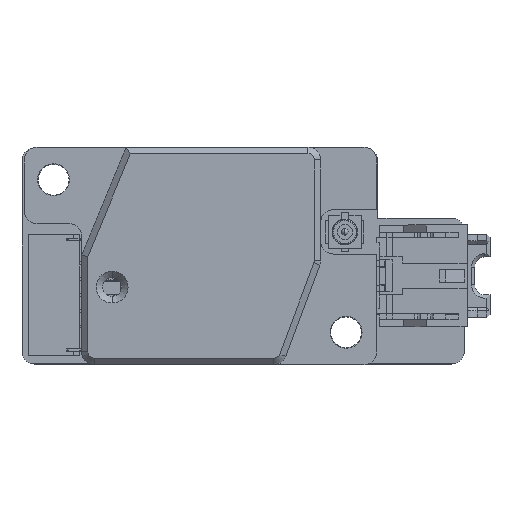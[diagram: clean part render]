
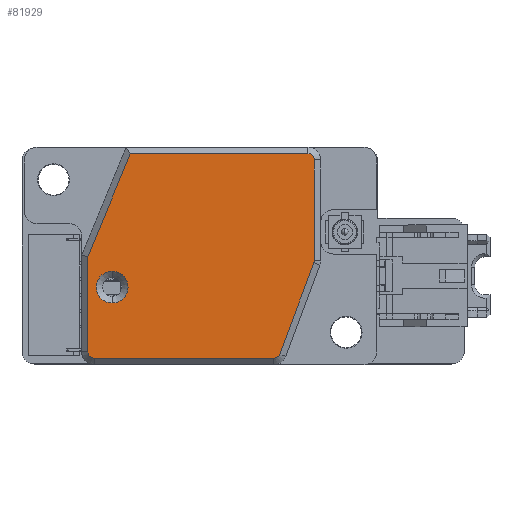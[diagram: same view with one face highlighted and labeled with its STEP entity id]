
A CAD part, top view. The second image highlights one B-rep face of the part: STEP entity #81929.
In plain terms, the highlighted planar face has unit normal (0, 0, 1).
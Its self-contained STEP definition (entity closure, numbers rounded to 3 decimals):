
#2525 = FACE_BOUND ( 'NONE', #97248, .T. ) ;
#2706 = EDGE_CURVE ( 'NONE', #183189, #329515, #355549, .T. ) ;
#2967 = LINE ( 'NONE', #348636, #216917 ) ;
#12756 = EDGE_CURVE ( 'NONE', #284502, #366598, #288538, .T. ) ;
#14820 = CARTESIAN_POINT ( 'NONE',  ( -7.55, 8.3, 4.4 ) ) ;
#17360 = EDGE_CURVE ( 'NONE', #314390, #156970, #401007, .T. ) ;
#17772 = CIRCLE ( 'NONE', #251817, 0.5 ) ;
#19172 = ORIENTED_EDGE ( 'NONE', *, *, #2706, .T. ) ;
#19414 = DIRECTION ( 'NONE',  ( 1., 0., 0. ) ) ;
#29597 = CARTESIAN_POINT ( 'NONE',  ( 7.55, -9., 4.4 ) ) ;
#32936 = DIRECTION ( 'NONE',  ( -1., 0., 0. ) ) ;
#38335 = VECTOR ( 'NONE', #242576, 1000. ) ;
#40787 = ORIENTED_EDGE ( 'NONE', *, *, #147637, .T. ) ;
#46308 = EDGE_CURVE ( 'NONE', #336574, #84696, #374452, .T. ) ;
#47425 = ORIENTED_EDGE ( 'NONE', *, *, #17360, .T. ) ;
#48029 = VECTOR ( 'NONE', #155359, 1000. ) ;
#48511 = VECTOR ( 'NONE', #32936, 1000. ) ;
#49855 = LINE ( 'NONE', #112898, #38335 ) ;
#53769 = AXIS2_PLACEMENT_3D ( 'NONE', #283234, #99055, #226653 ) ;
#57697 = CARTESIAN_POINT ( 'NONE',  ( 7.55, -8.5, 4.4 ) ) ;
#61278 = PLANE ( 'NONE',  #53769 ) ;
#71200 = LINE ( 'NONE', #171699, #167129 ) ;
#72932 = CARTESIAN_POINT ( 'NONE',  ( 8.05, -8.5, 4.4 ) ) ;
#80297 = AXIS2_PLACEMENT_3D ( 'NONE', #82317, #214168, #19414 ) ;
#81075 = AXIS2_PLACEMENT_3D ( 'NONE', #57697, #340489, #126904 ) ;
#81929 = ADVANCED_FACE ( 'NONE', ( #2525, #191229 ), #61278, .T. ) ;
#82317 = CARTESIAN_POINT ( 'NONE',  ( -2.45, 6.9, 4.4 ) ) ;
#84696 = VERTEX_POINT ( 'NONE', #375070 ) ;
#88728 = DIRECTION ( 'NONE',  ( 1., 0., 0. ) ) ;
#93516 = AXIS2_PLACEMENT_3D ( 'NONE', #14820, #333197, #105147 ) ;
#95528 = CARTESIAN_POINT ( 'NONE',  ( 8.05, 5.465, 4.4 ) ) ;
#97248 = EDGE_LOOP ( 'NONE', ( #282627, #98931 ) ) ;
#97596 = DIRECTION ( 'NONE',  ( 0., 0., -1. ) ) ;
#97981 = LINE ( 'NONE', #282182, #48511 ) ;
#98931 = ORIENTED_EDGE ( 'NONE', *, *, #118657, .T. ) ;
#99055 = DIRECTION ( 'NONE',  ( 0., 0., 1. ) ) ;
#101703 = CARTESIAN_POINT ( 'NONE',  ( -7.55, -5.807, 4.4 ) ) ;
#105147 = DIRECTION ( 'NONE',  ( 1., 0., 0. ) ) ;
#105263 = EDGE_CURVE ( 'NONE', #138170, #183189, #115818, .T. ) ;
#105918 = CARTESIAN_POINT ( 'NONE',  ( -2.45, 6.9, 4.4 ) ) ;
#112898 = CARTESIAN_POINT ( 'NONE',  ( 3.091, 7.507, 4.4 ) ) ;
#115818 = LINE ( 'NONE', #29597, #48029 ) ;
#118657 = EDGE_CURVE ( 'NONE', #84696, #336574, #388011, .T. ) ;
#121802 = EDGE_CURVE ( 'NONE', #220670, #314390, #97981, .T. ) ;
#126904 = DIRECTION ( 'NONE',  ( 1., 0., 0. ) ) ;
#137246 = DIRECTION ( 'NONE',  ( 1., 0., 0. ) ) ;
#138170 = VERTEX_POINT ( 'NONE', #235755 ) ;
#142400 = ORIENTED_EDGE ( 'NONE', *, *, #12756, .T. ) ;
#146797 = CARTESIAN_POINT ( 'NONE',  ( -0.544, -8.968, 4.4 ) ) ;
#147637 = EDGE_CURVE ( 'NONE', #329515, #364715, #2967, .T. ) ;
#150892 = DIRECTION ( 'NONE',  ( 0.936, -0.351, 0. ) ) ;
#155359 = DIRECTION ( 'NONE',  ( 1., 0., 0. ) ) ;
#156970 = VERTEX_POINT ( 'NONE', #298532 ) ;
#160152 = DIRECTION ( 'NONE',  ( 0., 1., 0. ) ) ;
#164779 = VERTEX_POINT ( 'NONE', #394186 ) ;
#167002 = AXIS2_PLACEMENT_3D ( 'NONE', #105918, #97596, #137246 ) ;
#167129 = VECTOR ( 'NONE', #293128, 1000. ) ;
#171699 = CARTESIAN_POINT ( 'NONE',  ( -8.05, -5.807, 4.4 ) ) ;
#183189 = VERTEX_POINT ( 'NONE', #263828 ) ;
#191229 = FACE_OUTER_BOUND ( 'NONE', #291742, .T. ) ;
#197030 = ORIENTED_EDGE ( 'NONE', *, *, #282813, .T. ) ;
#211579 = ORIENTED_EDGE ( 'NONE', *, *, #216524, .T. ) ;
#214168 = DIRECTION ( 'NONE',  ( 0., 0., -1. ) ) ;
#216524 = EDGE_CURVE ( 'NONE', #364715, #220670, #49855, .T. ) ;
#216917 = VECTOR ( 'NONE', #160152, 1000. ) ;
#220670 = VERTEX_POINT ( 'NONE', #257881 ) ;
#226653 = DIRECTION ( 'NONE',  ( 1., 0., 0. ) ) ;
#230824 = EDGE_CURVE ( 'NONE', #156970, #284502, #71200, .T. ) ;
#234436 = CARTESIAN_POINT ( 'NONE',  ( -1.2, 6.9, 4.4 ) ) ;
#235755 = CARTESIAN_POINT ( 'NONE',  ( -0.369, -9., 4.4 ) ) ;
#238158 = ORIENTED_EDGE ( 'NONE', *, *, #105263, .T. ) ;
#238372 = VECTOR ( 'NONE', #150892, 1000. ) ;
#242576 = DIRECTION ( 'NONE',  ( -0.925, 0.381, 0. ) ) ;
#251045 = ORIENTED_EDGE ( 'NONE', *, *, #316546, .T. ) ;
#251817 = AXIS2_PLACEMENT_3D ( 'NONE', #265884, #269988, #303537 ) ;
#257881 = CARTESIAN_POINT ( 'NONE',  ( -0.049, 8.8, 4.4 ) ) ;
#262718 = DIRECTION ( 'NONE',  ( 0., 0., 1. ) ) ;
#263828 = CARTESIAN_POINT ( 'NONE',  ( 7.55, -9., 4.4 ) ) ;
#264212 = ORIENTED_EDGE ( 'NONE', *, *, #230824, .T. ) ;
#265884 = CARTESIAN_POINT ( 'NONE',  ( -0.369, -8.5, 4.4 ) ) ;
#269988 = DIRECTION ( 'NONE',  ( 0., 0., 1. ) ) ;
#282182 = CARTESIAN_POINT ( 'NONE',  ( 0., 8.8, 4.4 ) ) ;
#282627 = ORIENTED_EDGE ( 'NONE', *, *, #46308, .T. ) ;
#282813 = EDGE_CURVE ( 'NONE', #366598, #164779, #404131, .T. ) ;
#283234 = CARTESIAN_POINT ( 'NONE',  ( 0., 0., 4.4 ) ) ;
#284502 = VERTEX_POINT ( 'NONE', #293560 ) ;
#288538 = CIRCLE ( 'NONE', #368784, 0.5 ) ;
#291742 = EDGE_LOOP ( 'NONE', ( #19172, #40787, #211579, #374954, #47425, #264212, #142400, #197030, #251045, #238158 ) ) ;
#293128 = DIRECTION ( 'NONE',  ( 0., -1., 0. ) ) ;
#293560 = CARTESIAN_POINT ( 'NONE',  ( -8.05, -5.807, 4.4 ) ) ;
#298532 = CARTESIAN_POINT ( 'NONE',  ( -8.05, 8.3, 4.4 ) ) ;
#303297 = CARTESIAN_POINT ( 'NONE',  ( -7.55, 8.8, 4.4 ) ) ;
#303537 = DIRECTION ( 'NONE',  ( 1., 0., 0. ) ) ;
#314390 = VERTEX_POINT ( 'NONE', #303297 ) ;
#316546 = EDGE_CURVE ( 'NONE', #164779, #138170, #17772, .T. ) ;
#329515 = VERTEX_POINT ( 'NONE', #72932 ) ;
#333197 = DIRECTION ( 'NONE',  ( 0., 0., 1. ) ) ;
#336574 = VERTEX_POINT ( 'NONE', #234436 ) ;
#340489 = DIRECTION ( 'NONE',  ( 0., 0., 1. ) ) ;
#348636 = CARTESIAN_POINT ( 'NONE',  ( 8.05, 5.8, 4.4 ) ) ;
#355549 = CIRCLE ( 'NONE', #81075, 0.5 ) ;
#364715 = VERTEX_POINT ( 'NONE', #95528 ) ;
#366598 = VERTEX_POINT ( 'NONE', #380456 ) ;
#368784 = AXIS2_PLACEMENT_3D ( 'NONE', #101703, #262718, #88728 ) ;
#374452 = CIRCLE ( 'NONE', #167002, 1.25 ) ;
#374954 = ORIENTED_EDGE ( 'NONE', *, *, #121802, .T. ) ;
#375070 = CARTESIAN_POINT ( 'NONE',  ( -3.7, 6.9, 4.4 ) ) ;
#380456 = CARTESIAN_POINT ( 'NONE',  ( -7.726, -6.275, 4.4 ) ) ;
#388011 = CIRCLE ( 'NONE', #80297, 1.25 ) ;
#394186 = CARTESIAN_POINT ( 'NONE',  ( -0.544, -8.968, 4.4 ) ) ;
#401007 = CIRCLE ( 'NONE', #93516, 0.5 ) ;
#404131 = LINE ( 'NONE', #146797, #238372 ) ;
